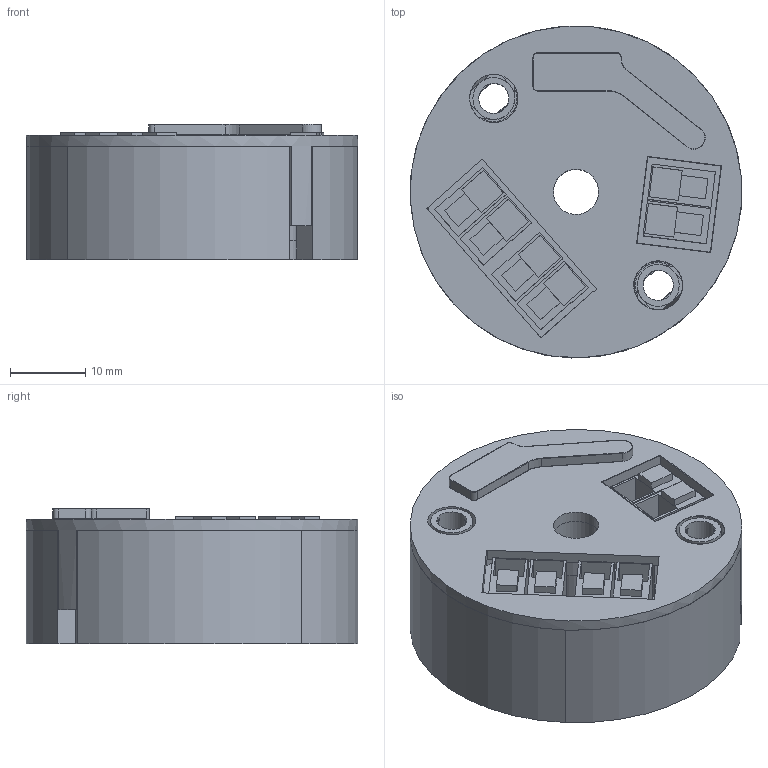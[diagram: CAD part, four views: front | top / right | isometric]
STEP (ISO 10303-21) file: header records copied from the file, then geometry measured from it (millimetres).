
FILE_DESCRIPTION(/* description */ (''),/* implementation_level */ '2;1');
FILE_NAME(/* name */ 'C:\Users\Zambolin\Desktop\PRODOTTI\T120\2D_3D\DM00195-0.stp',/* time_stamp */ '2021-04-19T09:24:15+02:00',/* author */ ('zambolin'),/* organization */ (''),/* preprocessor_version */ 'ST-DEVELOPER v18',/* originating_system */ 'Autodesk Inventor 2020',/* authorisation */ '');
FILE_SCHEMA (('AUTOMOTIVE_DESIGN { 1 0 10303 214 3 1 1 }'));
Length unit declared in the file: millimetre
Products named in the file (26): T120; SCATOLA-T120-R05_1; SCATOLA-T120-R05; SCATOLA-T120-R05_2; elettronica-1; elettronica; elettronica_1; elettronica_2; elettronica_3; elettronica_4; elettronica_5; elettronica_6; elettronica_7; elettronica_8; elettronica_9; elettronica_10; elettronica_11; elettronica_12; elettronica_13; elettronica_14; elettronica_15; elettronica_16; elettronica_17; elettronica_18; elettronica_19; elettronica_20
Assembly tree (25 placements, depth 3):
  T120
    SCATOLA-T120-R05_1
    SCATOLA-T120-R05
    SCATOLA-T120-R05_2
    elettronica-1
      elettronica
      elettronica_1
      elettronica_2
      elettronica_3
      elettronica_4
      elettronica_5
      elettronica_6
      elettronica_7
      elettronica_8
      elettronica_9
      elettronica_10
      elettronica_11
      elettronica_12
      elettronica_13
      elettronica_14
      elettronica_15
      elettronica_16
      elettronica_17
      elettronica_18
      elettronica_19
      elettronica_20
Bounding box: 43.93 x 43.99 x 17.9 mm (x, y, z)
Volume: 10758.9 mm3; surface area: 18681.9 mm2
Topology: 24 solids, 24 shells, 496 faces, 1187 edges, 744 vertices
Faces by surface type: plane 304, cylinder 124, torus 54, sphere 11, bspline 3
Full cylindrical faces by diameter (mm): 2.9 x1, 3 x1, 4 x2, 5.55 x2, 6 x2, 6.4 x2, 7.55 x1, 7.8 x1, 8.4 x1, 10.4 x1, 44 x1
Entity records: 15359 total; most frequent: CARTESIAN_POINT 2725, DIRECTION 2634, ORIENTED_EDGE 2378, EDGE_CURVE 1189, AXIS2_PLACEMENT_3D 924, LINE 786, VECTOR 786, VERTEX_POINT 744
